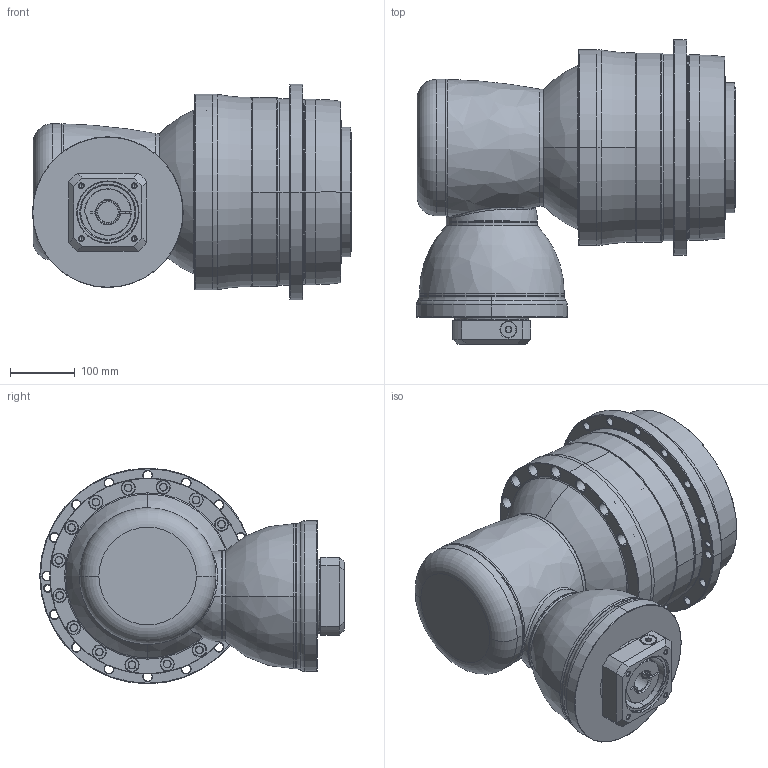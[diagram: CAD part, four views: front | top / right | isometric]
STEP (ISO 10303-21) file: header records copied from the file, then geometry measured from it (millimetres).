
FILE_DESCRIPTION((''),'2;1');
FILE_NAME('AHKA285_3ST_32-P0409700101_ASM','2016-12-05T',('d01943'),(''),'PRO/ENGINEER BY PARAMETRIC TECHNOLOGY CORPORATION, 2008410','PRO/ENGINEER BY PARAMETRIC TECHNOLOGY CORPORATION, 2008410','');
FILE_SCHEMA(('CONFIG_CONTROL_DESIGN'));
Length unit declared in the file: millimetre
Products named in the file (12): P1008600002; P1832800001; P0278800003; P0359800003; P1315600001; P1007600001; P1318600001; P0409700101; P0503700010; P0912600001; 21711418017; AHKA285_3ST_32-P0409700101_ASM
Assembly tree (11 placements, depth 2):
  AHKA285_3ST_32-P0409700101_ASM
    P1008600002
    P1832800001
    P0278800003
    P0359800003
    P1315600001
    P1007600001
    P1318600001
    P0409700101
    P0503700010
    P0912600001
    21711418017
Bounding box: 491 x 468.5 x 332 mm (x, y, z)
Volume: 21835153.3 mm3; surface area: 1593705.2 mm2
Topology: 12 solids, 12 shells, 1076 faces, 2417 edges, 1394 vertices
Faces by surface type: cone 382, cylinder 374, plane 145, torus 136, bspline 37, sphere 2
Entity records: 36392 total; most frequent: CARTESIAN_POINT 11787, DIRECTION 5672, ORIENTED_EDGE 4694, AXIS2_PLACEMENT_3D 2422, EDGE_CURVE 2347, VERTEX_POINT 1394, CIRCLE 1360, EDGE_LOOP 1271
